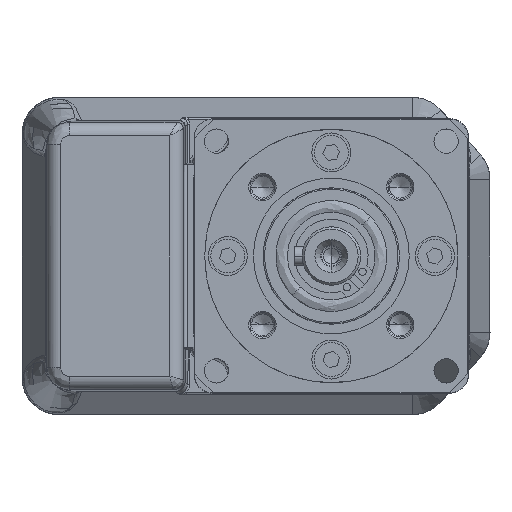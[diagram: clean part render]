
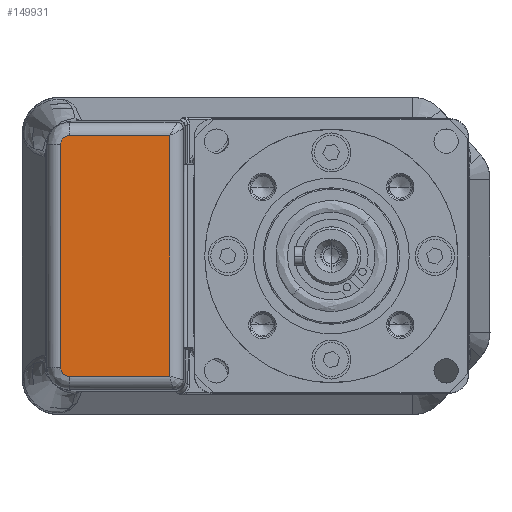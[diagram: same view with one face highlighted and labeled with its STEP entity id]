
A CAD part, left-side view. The second image highlights one B-rep face of the part: STEP entity #149931.
In plain terms, the highlighted planar face has unit normal (-1, 0, 0) as drawn and (0, 1, 0) by its records, which use the part's own axes.
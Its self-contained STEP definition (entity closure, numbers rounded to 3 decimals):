
#2718 = DIRECTION ( 'NONE',  ( 1., 0., 0. ) ) ;
#6773 = DIRECTION ( 'NONE',  ( 0., 0., -1. ) ) ;
#7156 = CARTESIAN_POINT ( 'NONE',  ( 24.326, 53.267, 54.896 ) ) ;
#8684 = ORIENTED_EDGE ( 'NONE', *, *, #112289, .F. ) ;
#9342 = LINE ( 'NONE', #88915, #13526 ) ;
#12634 = ORIENTED_EDGE ( 'NONE', *, *, #167410, .F. ) ;
#12822 = LINE ( 'NONE', #69068, #67774 ) ;
#13526 = VECTOR ( 'NONE', #102405, 1000. ) ;
#20479 = CARTESIAN_POINT ( 'NONE',  ( 24.63, 53.267, 54.28 ) ) ;
#21332 = VERTEX_POINT ( 'NONE', #25192 ) ;
#21503 = CARTESIAN_POINT ( 'NONE',  ( -24.625, 53.267, 54.312 ) ) ;
#22288 = CARTESIAN_POINT ( 'NONE',  ( 24.67, 53.267, 33.176 ) ) ;
#24331 = VERTEX_POINT ( 'NONE', #92859 ) ;
#25192 = CARTESIAN_POINT ( 'NONE',  ( 24.67, 53.267, 53.813 ) ) ;
#26317 = CARTESIAN_POINT ( 'NONE',  ( -22.893, 53.267, 55.589 ) ) ;
#26769 = VERTEX_POINT ( 'NONE', #66599 ) ;
#33663 = CARTESIAN_POINT ( 'NONE',  ( 24.67, 53.267, 53.813 ) ) ;
#34750 = CARTESIAN_POINT ( 'NONE',  ( -24.67, 53.267, 53.813 ) ) ;
#38252 = B_SPLINE_CURVE_WITH_KNOTS ( 'NONE', 3,
 ( #60831, #140681, #101149, #21503, #114560, #34750 ),
 .UNSPECIFIED., .F., .F.,
 ( 4, 2, 4 ),
 ( 0., 0.732, 1. ),
 .UNSPECIFIED. ) ;
#45582 = ORIENTED_EDGE ( 'NONE', *, *, #128261, .F. ) ;
#46426 = CARTESIAN_POINT ( 'NONE',  ( 23.35, 53.267, 55.532 ) ) ;
#46615 = VECTOR ( 'NONE', #6773, 1000. ) ;
#59749 = CARTESIAN_POINT ( 'NONE',  ( 23.836, 53.267, 55.312 ) ) ;
#60831 = CARTESIAN_POINT ( 'NONE',  ( -22.893, 53.267, 55.589 ) ) ;
#66599 = CARTESIAN_POINT ( 'NONE',  ( -24.67, 53.267, 33.176 ) ) ;
#67774 = VECTOR ( 'NONE', #148879, 1000. ) ;
#68473 = AXIS2_PLACEMENT_3D ( 'NONE', #161620, #82125, #2718 ) ;
#69068 = CARTESIAN_POINT ( 'NONE',  ( 0., 53.267, 55.589 ) ) ;
#70326 = CARTESIAN_POINT ( 'NONE',  ( 22.893, 53.267, 55.589 ) ) ;
#72822 = VERTEX_POINT ( 'NONE', #26317 ) ;
#73207 = CARTESIAN_POINT ( 'NONE',  ( 24.066, 53.267, 55.139 ) ) ;
#73919 = EDGE_LOOP ( 'NONE', ( #103587, #88279, #8684, #103921, #12634, #45582 ) ) ;
#82125 = DIRECTION ( 'NONE',  ( 0., -1., 0. ) ) ;
#86583 = CARTESIAN_POINT ( 'NONE',  ( 24.13, 53.267, 55.083 ) ) ;
#88279 = ORIENTED_EDGE ( 'NONE', *, *, #110495, .F. ) ;
#88915 = CARTESIAN_POINT ( 'NONE',  ( 24.67, 53.267, 44.397 ) ) ;
#89057 = B_SPLINE_CURVE_WITH_KNOTS ( 'NONE', 3,
 ( #70326, #98971, #46426, #139607, #59749, #152897, #73207, #166022, #86583, #7156, #100083, #20479, #113468, #33663 ),
 .UNSPECIFIED., .F., .F.,
 ( 4, 2, 1, 1, 2, 2, 2, 4 ),
 ( 0., 0.25, 0.375, 0.437, 0.469, 0.5, 0.75, 1. ),
 .UNSPECIFIED. ) ;
#91953 = LINE ( 'NONE', #165647, #46615 ) ;
#92859 = CARTESIAN_POINT ( 'NONE',  ( 22.893, 53.267, 55.589 ) ) ;
#97194 = FACE_OUTER_BOUND ( 'NONE', #73919, .T. ) ;
#98471 = VERTEX_POINT ( 'NONE', #22288 ) ;
#98971 = CARTESIAN_POINT ( 'NONE',  ( 23.124, 53.267, 55.582 ) ) ;
#100083 = CARTESIAN_POINT ( 'NONE',  ( 24.456, 53.267, 54.707 ) ) ;
#101149 = CARTESIAN_POINT ( 'NONE',  ( -24.245, 53.267, 55.164 ) ) ;
#102405 = DIRECTION ( 'NONE',  ( 0., 0., 1. ) ) ;
#103587 = ORIENTED_EDGE ( 'NONE', *, *, #111289, .F. ) ;
#103921 = ORIENTED_EDGE ( 'NONE', *, *, #167362, .T. ) ;
#105916 = CARTESIAN_POINT ( 'NONE',  ( 0., 53.267, 33.176 ) ) ;
#110495 = EDGE_CURVE ( 'NONE', #72822, #139804, #38252, .T. ) ;
#111289 = EDGE_CURVE ( 'NONE', #139804, #26769, #91953, .T. ) ;
#112289 = EDGE_CURVE ( 'NONE', #24331, #72822, #12822, .T. ) ;
#113468 = CARTESIAN_POINT ( 'NONE',  ( 24.673, 53.267, 54.053 ) ) ;
#114560 = CARTESIAN_POINT ( 'NONE',  ( -24.673, 53.267, 54.062 ) ) ;
#119121 = CARTESIAN_POINT ( 'NONE',  ( -24.67, 53.267, 53.813 ) ) ;
#126701 = LINE ( 'NONE', #105916, #161797 ) ;
#128261 = EDGE_CURVE ( 'NONE', #26769, #98471, #126701, .T. ) ;
#132613 = DIRECTION ( 'NONE',  ( 1., 0., 0. ) ) ;
#139607 = CARTESIAN_POINT ( 'NONE',  ( 23.68, 53.267, 55.394 ) ) ;
#139804 = VERTEX_POINT ( 'NONE', #119121 ) ;
#140681 = CARTESIAN_POINT ( 'NONE',  ( -23.57, 53.267, 55.568 ) ) ;
#147910 = PLANE ( 'NONE',  #68473 ) ;
#148879 = DIRECTION ( 'NONE',  ( -1., 0., 0. ) ) ;
#149931 = ADVANCED_FACE ( 'NONE', ( #97194 ), #147910, .F. ) ;
#152897 = CARTESIAN_POINT ( 'NONE',  ( 23.999, 53.267, 55.194 ) ) ;
#161620 = CARTESIAN_POINT ( 'NONE',  ( 0., 53.267, 58.677 ) ) ;
#161797 = VECTOR ( 'NONE', #132613, 1000. ) ;
#165647 = CARTESIAN_POINT ( 'NONE',  ( -24.67, 53.267, 58.677 ) ) ;
#166022 = CARTESIAN_POINT ( 'NONE',  ( 24.109, 53.267, 55.101 ) ) ;
#167362 = EDGE_CURVE ( 'NONE', #24331, #21332, #89057, .T. ) ;
#167410 = EDGE_CURVE ( 'NONE', #98471, #21332, #9342, .T. ) ;
